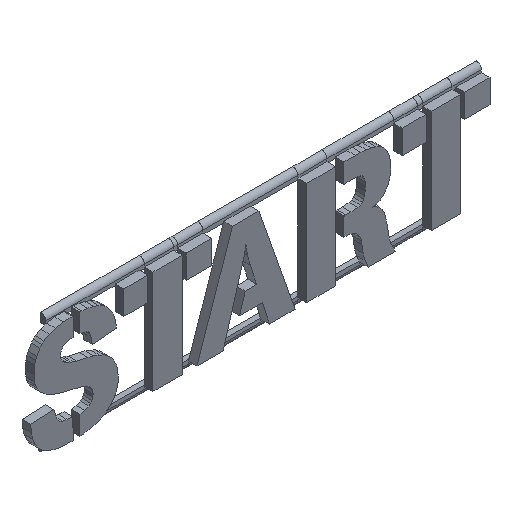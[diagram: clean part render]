
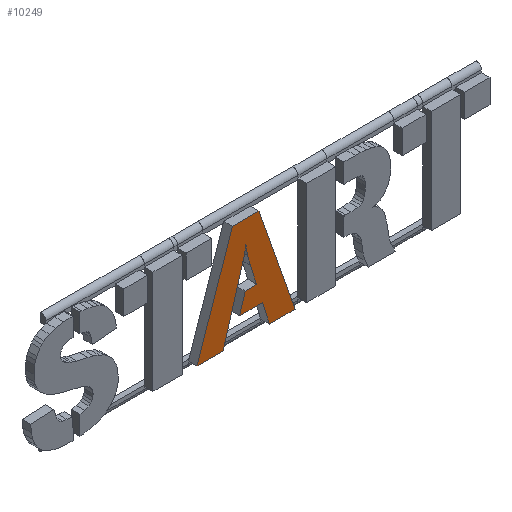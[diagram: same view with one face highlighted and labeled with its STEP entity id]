
A CAD part, isometric view. The second image highlights one B-rep face of the part: STEP entity #10249.
In plain terms, the highlighted planar face has unit normal (0, -1, 0).
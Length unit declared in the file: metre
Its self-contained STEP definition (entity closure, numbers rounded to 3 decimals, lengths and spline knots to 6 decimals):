
#1702=ORIENTED_EDGE('',*,*,#3880,.T.);
#1703=ORIENTED_EDGE('',*,*,#3884,.T.);
#1704=ORIENTED_EDGE('',*,*,#3886,.T.);
#1705=ORIENTED_EDGE('',*,*,#3888,.T.);
#1706=ORIENTED_EDGE('',*,*,#3891,.T.);
#1707=ORIENTED_EDGE('',*,*,#3894,.T.);
#1708=ORIENTED_EDGE('',*,*,#3896,.T.);
#1709=ORIENTED_EDGE('',*,*,#3898,.T.);
#1710=ORIENTED_EDGE('',*,*,#3900,.T.);
#1711=ORIENTED_EDGE('',*,*,#3902,.T.);
#1712=ORIENTED_EDGE('',*,*,#3904,.T.);
#1713=ORIENTED_EDGE('',*,*,#3906,.T.);
#1714=ORIENTED_EDGE('',*,*,#3908,.T.);
#1715=ORIENTED_EDGE('',*,*,#3910,.T.);
#1716=ORIENTED_EDGE('',*,*,#3912,.T.);
#3880=EDGE_CURVE('',#5096,#5095,#6329,.T.);
#3884=EDGE_CURVE('',#5095,#5097,#6333,.T.);
#3886=EDGE_CURVE('',#5097,#5098,#6335,.T.);
#3888=EDGE_CURVE('',#5098,#5099,#6337,.T.);
#3891=EDGE_CURVE('',#5099,#5101,#6340,.T.);
#3894=EDGE_CURVE('',#5101,#5102,#6343,.T.);
#3896=EDGE_CURVE('',#5102,#5103,#6345,.T.);
#3898=EDGE_CURVE('',#5103,#5104,#6347,.T.);
#3900=EDGE_CURVE('',#5104,#5105,#6349,.T.);
#3902=EDGE_CURVE('',#5105,#5106,#6351,.T.);
#3904=EDGE_CURVE('',#5106,#5107,#6353,.T.);
#3906=EDGE_CURVE('',#5107,#5108,#6355,.T.);
#3908=EDGE_CURVE('',#5108,#5109,#6357,.T.);
#3910=EDGE_CURVE('',#5109,#5110,#6359,.T.);
#3912=EDGE_CURVE('',#5110,#5096,#6361,.T.);
#5095=VERTEX_POINT('',#15217);
#5096=VERTEX_POINT('',#15219);
#5097=VERTEX_POINT('',#15224);
#5098=VERTEX_POINT('',#15228);
#5099=VERTEX_POINT('',#15232);
#5101=VERTEX_POINT('',#15238);
#5102=VERTEX_POINT('',#15243);
#5103=VERTEX_POINT('',#15247);
#5104=VERTEX_POINT('',#15251);
#5105=VERTEX_POINT('',#15255);
#5106=VERTEX_POINT('',#15259);
#5107=VERTEX_POINT('',#15263);
#5108=VERTEX_POINT('',#15267);
#5109=VERTEX_POINT('',#15271);
#5110=VERTEX_POINT('',#15275);
#6329=LINE('',#15218,#7792);
#6333=LINE('',#15225,#7796);
#6335=LINE('',#15229,#7798);
#6337=LINE('',#15233,#7800);
#6340=LINE('',#15239,#7803);
#6343=LINE('',#15244,#7806);
#6345=LINE('',#15248,#7808);
#6347=LINE('',#15252,#7810);
#6349=LINE('',#15256,#7812);
#6351=LINE('',#15260,#7814);
#6353=LINE('',#15264,#7816);
#6355=LINE('',#15268,#7818);
#6357=LINE('',#15272,#7820);
#6359=LINE('',#15276,#7822);
#6361=LINE('',#15279,#7824);
#7792=VECTOR('',#12410,1.);
#7796=VECTOR('',#12416,1.);
#7798=VECTOR('',#12420,1.);
#7800=VECTOR('',#12424,1.);
#7803=VECTOR('',#12429,1.);
#7806=VECTOR('',#12434,1.);
#7808=VECTOR('',#12438,1.);
#7810=VECTOR('',#12442,1.);
#7812=VECTOR('',#12446,1.);
#7814=VECTOR('',#12450,1.);
#7816=VECTOR('',#12454,1.);
#7818=VECTOR('',#12458,1.);
#7820=VECTOR('',#12462,1.);
#7822=VECTOR('',#12466,1.);
#7824=VECTOR('',#12470,1.);
#8706=EDGE_LOOP('',(#1702,#1703,#1704,#1705,#1706,#1707,#1708,#1709,#1710,
#1711,#1712,#1713,#1714,#1715,#1716));
#9229=FACE_BOUND('',#8706,.T.);
#9751=PLANE('',#10785);
#10249=ADVANCED_FACE('',(#9229),#9751,.T.);
#10785=AXIS2_PLACEMENT_3D('',#15280,#12471,#12472);
#12410=DIRECTION('',(1.,0.,0.));
#12416=DIRECTION('',(-0.332,0.,0.943));
#12420=DIRECTION('',(-1.,0.,0.));
#12424=DIRECTION('',(-0.326,0.,-0.946));
#12429=DIRECTION('',(1.,0.,0.));
#12434=DIRECTION('',(0.281,0.,0.96));
#12438=DIRECTION('',(0.256,0.,0.967));
#12442=DIRECTION('',(0.196,0.,0.981));
#12446=DIRECTION('',(0.164,0.,-0.986));
#12450=DIRECTION('',(0.266,0.,-0.964));
#12454=DIRECTION('',(0.308,0.,-0.952));
#12458=DIRECTION('',(-1.,0.,-0.013));
#12462=DIRECTION('',(-0.289,0.,-0.957));
#12466=DIRECTION('',(1.,0.,0.));
#12470=DIRECTION('',(0.293,0.,-0.956));
#12471=DIRECTION('',(0.,-1.,0.));
#12472=DIRECTION('',(1.,0.,0.));
#15217=CARTESIAN_POINT('',(0.013685,-0.0034,-0.02009));
#15218=CARTESIAN_POINT('',(0.008605,-0.0034,-0.02009));
#15219=CARTESIAN_POINT('',(0.003524,-0.0034,-0.02009));
#15224=CARTESIAN_POINT('',(-0.000517,-0.0034,0.020321));
#15225=CARTESIAN_POINT('',(0.006584,-0.0034,0.000116));
#15228=CARTESIAN_POINT('',(-0.010908,-0.0034,0.020321));
#15229=CARTESIAN_POINT('',(-0.005713,-0.0034,0.020321));
#15232=CARTESIAN_POINT('',(-0.024822,-0.0034,-0.02009));
#15233=CARTESIAN_POINT('',(-0.017865,-0.0034,0.000115));
#15238=CARTESIAN_POINT('',(-0.014546,-0.0034,-0.02009));
#15239=CARTESIAN_POINT('',(-0.019684,-0.0034,-0.02009));
#15243=CARTESIAN_POINT('',(-0.006983,-0.0034,0.005715));
#15244=CARTESIAN_POINT('',(-0.010764,-0.0034,-0.007187));
#15247=CARTESIAN_POINT('',(-0.006232,-0.0034,0.008544));
#15248=CARTESIAN_POINT('',(-0.006607,-0.0034,0.00713));
#15251=CARTESIAN_POINT('',(-0.005655,-0.0034,0.011431));
#15252=CARTESIAN_POINT('',(-0.005944,-0.0034,0.009988));
#15255=CARTESIAN_POINT('',(-0.004991,-0.0034,0.007447));
#15256=CARTESIAN_POINT('',(-0.005323,-0.0034,0.009439));
#15259=CARTESIAN_POINT('',(-0.003923,-0.0034,0.003579));
#15260=CARTESIAN_POINT('',(-0.004457,-0.0034,0.005513));
#15263=CARTESIAN_POINT('',(-0.001441,-0.0034,-0.004099));
#15264=CARTESIAN_POINT('',(-0.002682,-0.0034,-0.00026));
#15267=CARTESIAN_POINT('',(-0.005944,-0.0034,-0.004157));
#15268=CARTESIAN_POINT('',(-0.003692,-0.0034,-0.004128));
#15271=CARTESIAN_POINT('',(-0.008137,-0.0034,-0.011431));
#15272=CARTESIAN_POINT('',(-0.00704,-0.0034,-0.007794));
#15275=CARTESIAN_POINT('',(0.000869,-0.0034,-0.011431));
#15276=CARTESIAN_POINT('',(-0.003634,-0.0034,-0.011431));
#15279=CARTESIAN_POINT('',(0.002197,-0.0034,-0.015761));
#15280=CARTESIAN_POINT('',(0.,-0.0034,0.));
